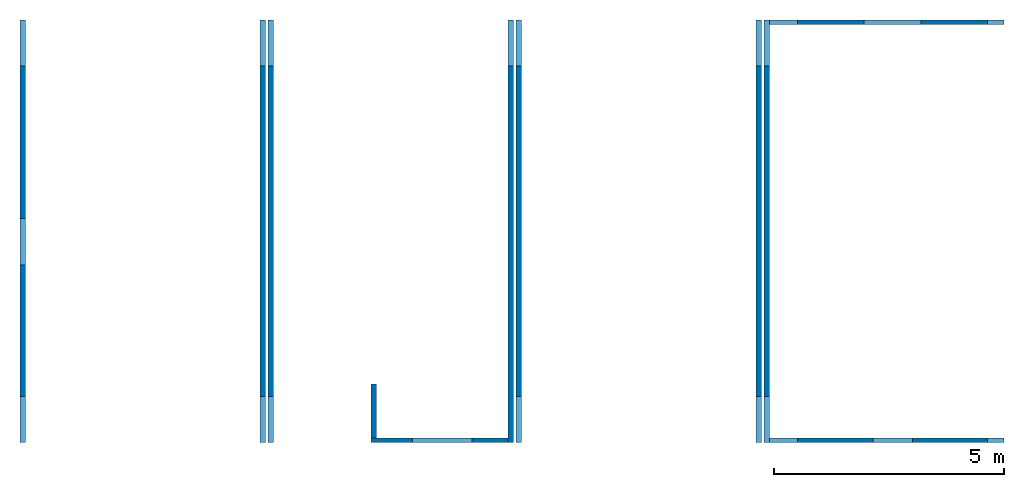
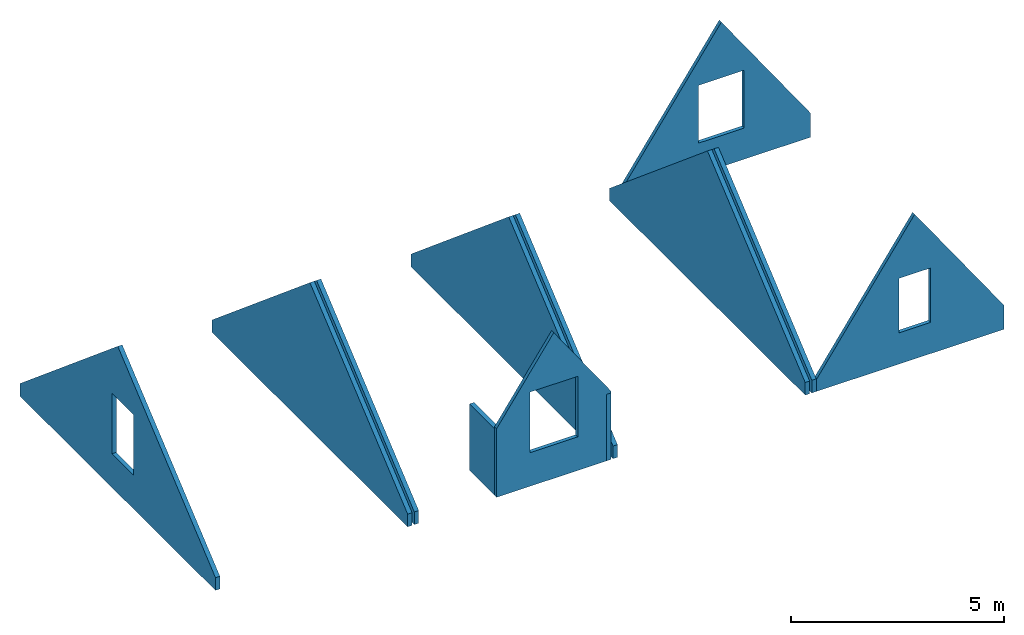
# One storey: 11 walls, 6 openings.
"""IFC2X3 building model written with IfcOpenShell, lengths in millimetres."""

from ifc_helpers import new_model, entity, si_unit, converted_unit, derived_unit, direction, frame, frame_2d, origin, origin_with_axes, origin_2d_with_axis, place, context, subcontext, project, spatial, polyline, rectangle, outline, extrude, clip, halfspace, material, layer, layer_set, layer_usage, type_object, element, save


model = new_model("IFC2X3")

# Units and contexts
model_context_1 = context("Model", 3, precision=0.01, world=origin(), true_north=direction((6.12303176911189e-17, 1.0)))
plan_context = context("Plan", 3, precision=0.01, world=origin(), true_north=direction((6.12303176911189e-17, 1.0)))
model_context_2 = context("Model", 3, precision=0.01, world=origin(), true_north=direction((6.12303176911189e-17, 1.0)))
body_context = subcontext(model_context_2, "Body", "Model", "MODEL_VIEW")
ifc_project = project(units=[converted_unit("PLANEANGLEUNIT", "DEGREE", entity("IfcPositiveLengthMeasure", 0.0174532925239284), si_unit("PLANEANGLEUNIT", "RADIAN"), dimensions=[0, 0, 0, 0, 0, 0, 0]), si_unit("AREAUNIT", "SQUARE_METRE", prefix="MILLI"), si_unit("LENGTHUNIT", "METRE", prefix="MILLI"), si_unit("MASSUNIT", "GRAM", prefix="KILO"), si_unit("POWERUNIT", "WATT"), si_unit("PRESSUREUNIT", "PASCAL"), si_unit("FORCEUNIT", "NEWTON", prefix="KILO"), si_unit("ELECTRICCURRENTUNIT", "AMPERE"), si_unit("THERMODYNAMICTEMPERATUREUNIT", "DEGREE_CELSIUS"), si_unit("TIMEUNIT", "SECOND"), si_unit("VOLUMEUNIT", "CUBIC_METRE"), derived_unit("LINEARVELOCITYUNIT", [(si_unit("LENGTHUNIT", "METRE"), 1), (si_unit("TIMEUNIT", "SECOND"), -1)]), derived_unit("VOLUMETRICFLOWRATEUNIT", [(si_unit("VOLUMEUNIT", "CUBIC_METRE"), 1), (si_unit("TIMEUNIT", "SECOND"), -1)]), derived_unit("THERMALTRANSMITTANCEUNIT", [(si_unit("POWERUNIT", "WATT"), 1), (si_unit("THERMODYNAMICTEMPERATUREUNIT", "KELVIN"), -1), (si_unit("AREAUNIT", "SQUARE_METRE"), -1)]), derived_unit("SOUNDPRESSUREUNIT", [(si_unit("PRESSUREUNIT", "PASCAL"), 1)])], contexts=[model_context_1, plan_context])

# Site, building, storey
site_placement = place(None, origin_with_axes())
site = spatial("IfcSite", under=ifc_project, at=site_placement, Name="Harderwijk", CompositionType="ELEMENT")
building_placement = place(site_placement, origin_with_axes())
building = spatial("IfcBuilding", under=site, at=building_placement, CompositionType="ELEMENT")
storey_placement = place(building_placement, frame((0.0, 0.0, 5840.0), z_axis=(0.0, 0.0, 1.0), x_axis=(1.0, 0.0, 0.0)))
storey = spatial("IfcBuildingStorey", under=building, at=storey_placement, Name="02 tweede verdieping", CompositionType="ELEMENT", Elevation=5840.00000000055)

# Wall
ifc_material = material(Name="kalkzandsteen_CS12")
ifc_layer_1 = layer(ifc_material, 120.0)
ifc_layer_set_1 = layer_set([ifc_layer_1], Name="Basic Wall:22_kalkzandsteen element_CS12_120mm")
ifc_layer_usage_1 = layer_usage(ifc_layer_set_1, "AXIS2", "POSITIVE", -60.0)
wall_type_1 = type_object("IfcWallType", Name="22_kalkzandsteen element_CS12_120mm", PredefinedType="STANDARD", material=ifc_layer_set_1)
wall_1_placement = place(storey_placement, frame((15310.0, 19200.0, -70.0), z_axis=(0.0, 0.0, 1.0), x_axis=(0.0, -1.0, 0.0)))
element("IfcWallStandardCase", 1, at=wall_1_placement, inside=storey, type_object=wall_type_1, material=ifc_layer_usage_1, Name="Basic Wall:22_kalkzandsteen element_CS12_120mm", ObjectType="Basic Wall:22_kalkzandsteen element_CS12_120mm", context=body_context, shape_type="Clipping", body=[
    clip(clip(extrude(rectangle(XDim=9200.00000000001, YDim=119.999999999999, at=frame_2d((4600.0, -5.86197757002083e-13), x_axis=(-1.0, 0.0))), origin(), (0.0, 0.0, 1.0), 4223.59480182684), halfspace(frame((4600.0, -60.0, 4223.59480182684), z_axis=(0.642787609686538, 0.0, 0.766044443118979), x_axis=(0.0, 1.0, 0.0)), False)), halfspace(frame((0.0, -60.0, 363.736498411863), z_axis=(-0.642787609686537, 0.0, 0.76604444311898), x_axis=(0.0, 1.0, 0.0)), False)),
])

# Wall, opening
ifc_layer_usage_2 = layer_usage(ifc_layer_set_1, "AXIS2", "POSITIVE", -60.0)
wall_2_placement = place(storey_placement, frame((20710.0, 19200.0, -70.0), z_axis=(0.0, 0.0, 1.0), x_axis=(0.0, -1.0, 0.0)))
wall_2 = element("IfcWallStandardCase", 2, at=wall_2_placement, inside=storey, type_object=wall_type_1, material=ifc_layer_usage_2, Name="Basic Wall:22_kalkzandsteen element_CS12_120mm", ObjectType="Basic Wall:22_kalkzandsteen element_CS12_120mm", context=body_context, shape_type="Clipping", body=[
    clip(clip(extrude(rectangle(XDim=9200.00000000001, YDim=119.999999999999, at=frame_2d((4600.0, 4.9382720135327e-13), x_axis=(-1.0, 0.0))), origin(), (0.0, 0.0, 1.0), 4223.55480217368), halfspace(frame((0.0, -60.0, 363.7364984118), z_axis=(-0.642787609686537, 0.0, 0.76604444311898), x_axis=(0.0, 1.0, 0.0)), False)), halfspace(frame((9200.0, 0.0, 1912.0), z_axis=(0.449004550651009, 0.0, 0.893529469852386), x_axis=(0.0, 1.0, 0.0)), False)),
])
opening_1_placement = place(wall_2_placement, origin_with_axes())
element("IfcOpeningElement", 3, at=opening_1_placement, cuts=wall_2, Name="Basic Wall:22_kalkzandsteen element_CS12_120mm", ObjectType="Opening", context=body_context, shape_type="SweptSolid", body=[
    extrude(outline(polyline([(-2265.6522037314, -276.174307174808), (2882.52457715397, -276.174307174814), (-616.87237342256, 552.348614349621), (-2265.6522037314, -276.174307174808)])), frame((7051.56946683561, 60.0, 2682.51826739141), z_axis=(0.0, -1.0, 0.0), x_axis=(-0.893529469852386, 0.0, 0.449004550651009)), (0.0, 0.0, 1.0), 120.0),
])

# Walls
ifc_layer_usage_3 = layer_usage(ifc_layer_set_1, "AXIS2", "NEGATIVE", 60.0)
wall_3_placement = place(storey_placement, frame((20890.0, 19200.0, -70.0), z_axis=(0.0, 0.0, 1.0), x_axis=(0.0, -1.0, 0.0)))
element("IfcWallStandardCase", 4, at=wall_3_placement, inside=storey, type_object=wall_type_1, material=ifc_layer_usage_3, Name="Basic Wall:22_kalkzandsteen element_CS12_120mm", ObjectType="Basic Wall:22_kalkzandsteen element_CS12_120mm", context=body_context, shape_type="Clipping", body=[
    clip(clip(extrude(rectangle(XDim=9200.00000000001, YDim=119.999999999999, at=frame_2d((4600.0, -4.9382720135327e-13), x_axis=(-1.0, 0.0))), origin(), (0.0, 0.0, 1.0), 4223.55480217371), halfspace(frame((4599.95233026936, -60.0, 4223.55480217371), z_axis=(0.642787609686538, 0.0, 0.76604444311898), x_axis=(0.0, 1.0, 0.0)), False)), halfspace(frame((0.0, -60.0, 363.736498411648), z_axis=(-0.642787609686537, 0.0, 0.76604444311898), x_axis=(0.0, 1.0, 0.0)), False)),
])
ifc_layer_usage_4 = layer_usage(ifc_layer_set_1, "AXIS2", "POSITIVE", -60.0)
wall_4_placement = place(storey_placement, frame((26110.0, 19200.0, -70.0), z_axis=(0.0, 0.0, 1.0), x_axis=(0.0, -1.0, 0.0)))
element("IfcWallStandardCase", 5, at=wall_4_placement, inside=storey, type_object=wall_type_1, material=ifc_layer_usage_4, Name="Basic Wall:22_kalkzandsteen element_CS12_120mm", ObjectType="Basic Wall:22_kalkzandsteen element_CS12_120mm", context=body_context, shape_type="Clipping", body=[
    clip(clip(extrude(rectangle(XDim=9200.00000000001, YDim=119.999999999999, at=frame_2d((4600.0, 4.9382720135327e-13), x_axis=(-1.0, 0.0))), origin(), (0.0, 0.0, 1.0), 4223.59480182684), halfspace(frame((4600.0, -60.0, 4223.59480182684), z_axis=(0.642787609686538, 0.0, 0.766044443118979), x_axis=(0.0, 1.0, 0.0)), False)), halfspace(frame((0.0, -60.0, 363.736498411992), z_axis=(-0.642787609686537, 0.0, 0.76604444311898), x_axis=(0.0, 1.0, 0.0)), False)),
])
ifc_layer_usage_5 = layer_usage(ifc_layer_set_1, "AXIS2", "NEGATIVE", 60.0)
wall_5_placement = place(storey_placement, frame((26290.0, 19200.0, -70.0), z_axis=(0.0, 0.0, 1.0), x_axis=(0.0, -1.0, 0.0)))
element("IfcWallStandardCase", 6, at=wall_5_placement, inside=storey, type_object=wall_type_1, material=ifc_layer_usage_5, Name="Basic Wall:22_kalkzandsteen element_CS12_120mm", ObjectType="Basic Wall:22_kalkzandsteen element_CS12_120mm", context=body_context, shape_type="Clipping", body=[
    clip(clip(extrude(rectangle(XDim=9199.99999999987, YDim=119.999999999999, at=frame_2d((4599.99999999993, -4.9382720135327e-13), x_axis=(-1.0, 0.0))), origin(), (0.0, 0.0, 1.0), 4223.04755547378), halfspace(frame((4600.0158990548, -60.0, 4223.04755547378), z_axis=(0.642787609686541, 0.0, 0.766044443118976), x_axis=(0.0, 1.0, 0.0)), False)), halfspace(frame((0.0, -60.0, 363.1759111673), z_axis=(-0.642787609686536, 0.0, 0.766044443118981), x_axis=(0.0, 1.0, 0.0)), False)),
])
ifc_layer_usage_6 = layer_usage(ifc_layer_set_1, "AXIS2", "NEGATIVE", 60.0)
wall_6_placement = place(storey_placement, frame((15490.0, 19200.0, -70.0), z_axis=(0.0, 0.0, 1.0), x_axis=(0.0, -1.0, 0.0)))
element("IfcWallStandardCase", 7, at=wall_6_placement, inside=storey, type_object=wall_type_1, material=ifc_layer_usage_6, Name="Basic Wall:22_kalkzandsteen element_CS12_120mm", ObjectType="Basic Wall:22_kalkzandsteen element_CS12_120mm", context=body_context, shape_type="Clipping", body=[
    clip(clip(extrude(rectangle(XDim=9200.00000000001, YDim=119.999999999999, at=frame_2d((4600.0, 5.89750470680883e-13), x_axis=(-1.0, 0.0))), origin(), (0.0, 0.0, 1.0), 4223.59480182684), halfspace(frame((4600.0, -60.0, 4223.59480182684), z_axis=(0.642787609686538, 0.0, 0.766044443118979), x_axis=(0.0, 1.0, 0.0)), False)), halfspace(frame((0.0, -60.0, 363.736498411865), z_axis=(-0.642787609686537, 0.0, 0.76604444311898), x_axis=(0.0, 1.0, 0.0)), False)),
])

# Wall, opening
ifc_layer_2 = layer(ifc_material, 120.0)
ifc_layer_set_2 = layer_set([ifc_layer_2], Name="Basic Wall:21_kalkzandsteen element_CS12_120mm")
ifc_layer_usage_7 = layer_usage(ifc_layer_set_2, "AXIS2", "NEGATIVE", 60.0)
wall_type_2 = type_object("IfcWallType", Name="21_kalkzandsteen element_CS12_120mm", PredefinedType="STANDARD", material=ifc_layer_set_2)
wall_7_placement = place(storey_placement, frame((10090.0, 19200.0, -70.0), z_axis=(0.0, 0.0, 1.0), x_axis=(0.0, -1.0, 0.0)))
wall_7 = element("IfcWallStandardCase", 8, at=wall_7_placement, inside=storey, type_object=wall_type_2, material=ifc_layer_usage_7, Name="Basic Wall:21_kalkzandsteen element_CS12_120mm", ObjectType="Basic Wall:21_kalkzandsteen element_CS12_120mm", context=body_context, shape_type="Clipping", body=[
    clip(clip(extrude(rectangle(XDim=9200.00000000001, YDim=119.999999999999, at=frame_2d((4600.0, 5.89750470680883e-13), x_axis=(-1.0, 0.0))), origin(), (0.0, 0.0, 1.0), 4223.55480217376), halfspace(frame((4599.95233026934, -60.0, 4223.55480217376), z_axis=(0.642787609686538, 0.0, 0.76604444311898), x_axis=(0.0, 1.0, 0.0)), False)), halfspace(frame((0.0, -60.0, 363.736498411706), z_axis=(-0.642787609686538, 0.0, 0.76604444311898), x_axis=(0.0, 1.0, 0.0)), False)),
])
opening_2_placement = place(wall_7_placement, frame((5337.0, -1584.0, 965.0), z_axis=(0.0, 0.0, 1.0), x_axis=(0.0, 1.0, 0.0)))
element("IfcOpeningElement", 9, at=opening_2_placement, cuts=wall_7, Name="Basic Wall:21_kalkzandsteen element_CS12_120mm", ObjectType="Opening", context=body_context, shape_type="SweptSolid", body=[
    extrude(rectangle(XDim=1740.0, YDim=1014.0, at=origin_2d_with_axis()), frame((0.0, 507.0, 870.0), z_axis=(1.0, 0.0, 0.0), x_axis=(0.0, 0.0, -1.0)), (0.0, 0.0, 1.0), 3048.0),
])

# Wall
ifc_layer_usage_8 = layer_usage(ifc_layer_set_2, "AXIS2", "NEGATIVE", 60.0)
wall_8_placement = place(storey_placement, frame((17727.0, 10100.0, -70.0), z_axis=(0.0, 0.0, 1.0), x_axis=(0.0, 1.0, 0.0)))
element("IfcWallStandardCase", 10, at=wall_8_placement, inside=storey, type_object=wall_type_2, material=ifc_layer_usage_8, Name="Basic Wall:21_kalkzandsteen element_CS12_120mm", ObjectType="Basic Wall:21_kalkzandsteen element_CS12_120mm", context=body_context, shape_type="SweptSolid", body=[
    extrude(rectangle(XDim=1175.19133185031, YDim=119.999999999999, at=frame_2d((587.595665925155, 1.77635683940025e-14), x_axis=(-1.0, 0.0))), origin(), (0.0, 0.0, 1.0), 1912.0),
])

# Wall, opening
ifc_layer_3 = layer(ifc_material, 100.0)
ifc_layer_set_3 = layer_set([ifc_layer_3], Name="Basic Wall:21_kalkzandsteen element_CS12_100mm")
ifc_layer_usage_9 = layer_usage(ifc_layer_set_3, "AXIS2", "NEGATIVE", 50.0)
wall_type_3 = type_object("IfcWallType", Name="21_kalkzandsteen element_CS12_100mm", PredefinedType="STANDARD", material=ifc_layer_set_3)
wall_9_placement = place(storey_placement, frame((31450.0, 10050.0, -70.0), z_axis=(0.0, 0.0, 1.0), x_axis=(-1.0, 0.0, 0.0)))
wall_9 = element("IfcWallStandardCase", 11, at=wall_9_placement, inside=storey, type_object=wall_type_3, material=ifc_layer_usage_9, Name="Basic Wall:21_kalkzandsteen element_CS12_100mm", ObjectType="Basic Wall:21_kalkzandsteen element_CS12_100mm", context=body_context, shape_type="Clipping", body=[
    clip(clip(extrude(rectangle(XDim=5099.99999999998, YDim=99.9999999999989, at=frame_2d((2550.0, -5.6488147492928e-13), x_axis=(-1.0, 0.0))), origin(), (0.0, 0.0, 1.0), 4154.26201209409), halfspace(frame((2425.0, -50.0, 4154.26201209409), z_axis=(0.819152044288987, 0.0, 0.573576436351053), x_axis=(0.0, 1.0, 0.0)), False)), halfspace(frame((0.0, -50.0, 691.003095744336), z_axis=(-0.819152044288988, 0.0, 0.573576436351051), x_axis=(0.0, 1.0, 0.0)), False)),
])
opening_3_placement = place(wall_9_placement, frame((2856.0, 1574.0, 897.0), z_axis=(0.0, 0.0, 1.0), x_axis=(-1.0, 0.0, 0.0)))
element("IfcOpeningElement", 12, at=opening_3_placement, cuts=wall_9, Name="Basic Wall:21_kalkzandsteen element_CS12_100mm", ObjectType="Opening", context=body_context, shape_type="SweptSolid", body=[
    extrude(rectangle(XDim=1563.0, YDim=861.999999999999, at=frame_2d((0.0, -2.1600499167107e-12), x_axis=(1.0, 0.0))), frame((431.0, 3048.0, 781.5), z_axis=(0.0, -1.0, 0.0), x_axis=(0.0, 0.0, -1.0)), (0.0, 0.0, 1.0), 3048.0),
])

ifc_layer_usage_10 = layer_usage(ifc_layer_set_3, "AXIS2", "POSITIVE", -50.0)
wall_10_placement = place(storey_placement, frame((31450.0, 19150.0, -70.0), z_axis=(0.0, 0.0, 1.0), x_axis=(-1.0, 0.0, 0.0)))
wall_10 = element("IfcWallStandardCase", 13, at=wall_10_placement, inside=storey, type_object=wall_type_3, material=ifc_layer_usage_10, Name="Basic Wall:21_kalkzandsteen element_CS12_100mm", ObjectType="Basic Wall:21_kalkzandsteen element_CS12_100mm", context=body_context, shape_type="Clipping", body=[
    clip(clip(extrude(rectangle(XDim=5099.99999999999, YDim=99.9999999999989, at=frame_2d((2549.99999999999, -7.17648163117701e-13), x_axis=(-1.0, 0.0))), origin(), (0.0, 0.0, 1.0), 4154.26201209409), halfspace(frame((2425.0, -50.0, 4154.26201209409), z_axis=(0.819152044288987, 0.0, 0.573576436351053), x_axis=(0.0, 1.0, 0.0)), False)), halfspace(frame((0.0, -50.0, 691.003095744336), z_axis=(-0.819152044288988, 0.0, 0.573576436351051), x_axis=(0.0, 1.0, 0.0)), False)),
])
opening_4_placement = place(wall_10_placement, frame((3047.0, 1474.0, 895.0), z_axis=(0.0, 0.0, 1.0), x_axis=(-1.0, 0.0, 0.0)))
element("IfcOpeningElement", 14, at=opening_4_placement, cuts=wall_10, Name="Basic Wall:21_kalkzandsteen element_CS12_100mm", ObjectType="Opening", context=body_context, shape_type="SweptSolid", body=[
    extrude(rectangle(XDim=1660.0, YDim=1244.0, at=frame_2d((5.11590769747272e-13, -2.21689333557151e-12), x_axis=(1.0, 0.0))), frame((622.0, 3048.0, 830.0), z_axis=(0.0, -1.0, 0.0), x_axis=(0.0, 0.0, -1.0)), (0.0, 0.0, 1.0), 3048.0),
])

# Wall, openings
ifc_layer_usage_11 = layer_usage(ifc_layer_set_3, "AXIS2", "NEGATIVE", 50.0)
wall_11_placement = place(storey_placement, frame((20770.0, 10050.0, -70.0), z_axis=(0.0, 0.0, 1.0), x_axis=(-1.0, 0.0, 0.0)))
wall_11 = element("IfcWallStandardCase", 15, at=wall_11_placement, inside=storey, type_object=wall_type_3, material=ifc_layer_usage_11, Name="Basic Wall:21_kalkzandsteen element_CS12_100mm", ObjectType="Basic Wall:21_kalkzandsteen element_CS12_100mm", context=body_context, shape_type="Clipping", body=[
    clip(clip(extrude(rectangle(XDim=3103.00000000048, YDim=99.9999999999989, at=frame_2d((1551.50000000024, -5.50670620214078e-13), x_axis=(-1.0, 0.0))), origin(), (0.0, 0.0, 1.0), 4186.14413451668), halfspace(frame((0.0, -50.0, 1970.37250205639), z_axis=(-0.819152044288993, 0.0, 0.573576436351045), x_axis=(0.0, 1.0, 0.0)), False)), halfspace(frame((1551.49999999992, -50.0, 4186.14413451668), z_axis=(0.81915204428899, 0.0, 0.573576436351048), x_axis=(0.0, 1.0, 0.0)), False)),
])
opening_5_placement = place(wall_11_placement, origin_with_axes())
element("IfcOpeningElement", 16, at=opening_5_placement, cuts=wall_11, Name="Basic Wall:21_kalkzandsteen element_CS12_100mm", ObjectType="Opening", context=body_context, shape_type="SweptSolid", body=[
    extrude(rectangle(XDim=1911.99999999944, YDim=120.000000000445, at=frame_2d((-5.6843418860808e-13, -2.16360263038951e-12), x_axis=(1.0, 0.0))), frame((60.0, 50.0, 956.0), z_axis=(0.0, -1.0, 0.0), x_axis=(0.0, 0.0, -1.0)), (0.0, 0.0, 1.0), 100.0),
])
opening_6_placement = place(wall_11_placement, frame((2191.0, 1574.0, 965.0), z_axis=(0.0, 0.0, 1.0), x_axis=(-1.0, 0.0, 0.0)))
element("IfcOpeningElement", 17, at=opening_6_placement, cuts=wall_11, Name="Basic Wall:21_kalkzandsteen element_CS12_100mm", ObjectType="Opening", context=body_context, shape_type="SweptSolid", body=[
    extrude(rectangle(XDim=1740.0, YDim=1292.0, at=frame_2d((-5.11590769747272e-13, 0.0), x_axis=(1.0, 0.0))), frame((646.0, 3048.0, 870.0), z_axis=(0.0, -1.0, 0.0), x_axis=(0.0, 0.0, -1.0)), (0.0, 0.0, 1.0), 3048.0),
])

save(model, "model.ifc")
